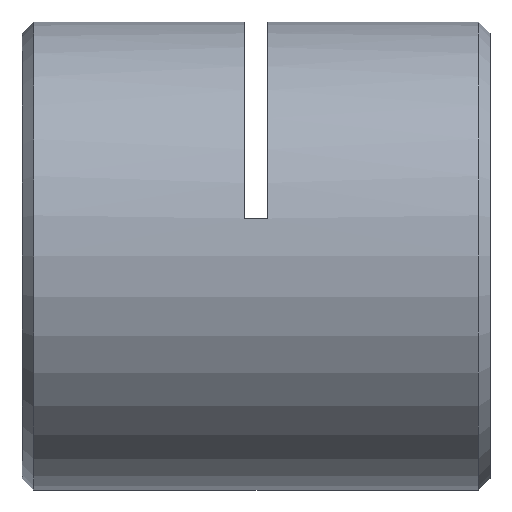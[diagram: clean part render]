
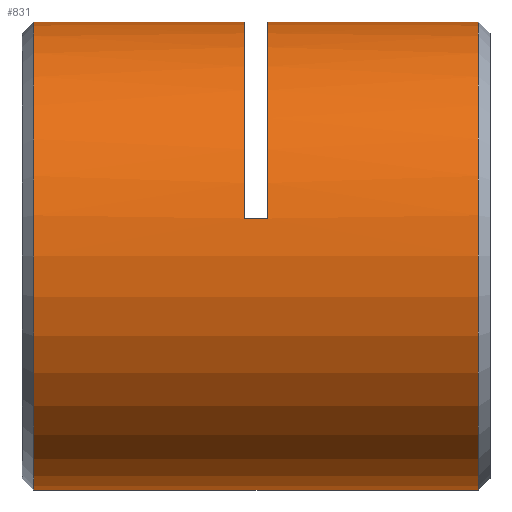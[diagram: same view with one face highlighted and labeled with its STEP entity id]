
A CAD part, left-side view. The second image highlights one B-rep face of the part: STEP entity #831.
In plain terms, the highlighted cylindrical face has radius 8 mm (diameter 16 mm), a partial arc.
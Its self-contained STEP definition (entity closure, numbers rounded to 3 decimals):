
#122 = ORIENTED_EDGE ( 'NONE', *, *, #991, .F. ) ;
#131 = ORIENTED_EDGE ( 'NONE', *, *, #1082, .T. ) ;
#174 = AXIS2_PLACEMENT_3D ( 'NONE', #250, #2898, #3213 ) ;
#179 = VERTEX_POINT ( 'NONE', #2914 ) ;
#250 = CARTESIAN_POINT ( 'NONE',  ( 0., 8.65, 0. ) ) ;
#302 = VECTOR ( 'NONE', #3317, 1000. ) ;
#452 = EDGE_LOOP ( 'NONE', ( #122, #3755, #973, #3334, #1935, #2507, #131, #2766 ) ) ;
#476 = CARTESIAN_POINT ( 'NONE',  ( 0., 0.25, 8. ) ) ;
#592 = AXIS2_PLACEMENT_3D ( 'NONE', #2470, #1619, #2769 ) ;
#618 = EDGE_CURVE ( 'NONE', #2199, #3377, #3453, .T. ) ;
#637 = DIRECTION ( 'NONE',  ( 0., 0., 1. ) ) ;
#674 = DIRECTION ( 'NONE',  ( 0., 1., 0. ) ) ;
#831 = ADVANCED_FACE ( 'NONE', ( #3360 ), #897, .T. ) ;
#857 = EDGE_CURVE ( 'NONE', #3784, #2199, #1928, .T. ) ;
#892 = CARTESIAN_POINT ( 'NONE',  ( 0., 0.65, -8. ) ) ;
#897 = CYLINDRICAL_SURFACE ( 'NONE', #3792, 8. ) ;
#933 = CARTESIAN_POINT ( 'NONE',  ( 0., 0.65, 0. ) ) ;
#973 = ORIENTED_EDGE ( 'NONE', *, *, #618, .T. ) ;
#978 = CARTESIAN_POINT ( 'NONE',  ( 0., 0.25, -8. ) ) ;
#991 = EDGE_CURVE ( 'NONE', #3784, #179, #3733, .T. ) ;
#1030 = VECTOR ( 'NONE', #2185, 1000. ) ;
#1082 = EDGE_CURVE ( 'NONE', #3148, #2596, #2667, .T. ) ;
#1127 = CARTESIAN_POINT ( 'NONE',  ( -7.897, 8.25, 1.28 ) ) ;
#1237 = CARTESIAN_POINT ( 'NONE',  ( 0., 0.25, 0. ) ) ;
#1535 = EDGE_CURVE ( 'NONE', #1782, #3148, #2883, .T. ) ;
#1543 = DIRECTION ( 'NONE',  ( 0., 1., 0. ) ) ;
#1564 = CARTESIAN_POINT ( 'NONE',  ( 0., 7.85, 8. ) ) ;
#1619 = DIRECTION ( 'NONE',  ( 0., -1., 0. ) ) ;
#1654 = CARTESIAN_POINT ( 'NONE',  ( -7.897, 8.65, 1.28 ) ) ;
#1756 = AXIS2_PLACEMENT_3D ( 'NONE', #933, #1543, #3268 ) ;
#1782 = VERTEX_POINT ( 'NONE', #1654 ) ;
#1904 = CARTESIAN_POINT ( 'NONE',  ( 0., 0.25, 8. ) ) ;
#1928 = CIRCLE ( 'NONE', #1756, 8. ) ;
#1935 = ORIENTED_EDGE ( 'NONE', *, *, #2172, .T. ) ;
#1995 = AXIS2_PLACEMENT_3D ( 'NONE', #3554, #3580, #3259 ) ;
#2056 = VECTOR ( 'NONE', #3181, 1000. ) ;
#2172 = EDGE_CURVE ( 'NONE', #2516, #1782, #3632, .T. ) ;
#2185 = DIRECTION ( 'NONE',  ( 0., 1., 0. ) ) ;
#2199 = VERTEX_POINT ( 'NONE', #2338 ) ;
#2338 = CARTESIAN_POINT ( 'NONE',  ( 0., 0.65, 8. ) ) ;
#2470 = CARTESIAN_POINT ( 'NONE',  ( 0., 15.85, 0. ) ) ;
#2507 = ORIENTED_EDGE ( 'NONE', *, *, #1535, .T. ) ;
#2516 = VERTEX_POINT ( 'NONE', #3201 ) ;
#2596 = VERTEX_POINT ( 'NONE', #3545 ) ;
#2667 = LINE ( 'NONE', #476, #2930 ) ;
#2766 = ORIENTED_EDGE ( 'NONE', *, *, #3540, .T. ) ;
#2769 = DIRECTION ( 'NONE',  ( 0., 0., -1. ) ) ;
#2883 = CIRCLE ( 'NONE', #174, 8. ) ;
#2898 = DIRECTION ( 'NONE',  ( 0., 1., 0. ) ) ;
#2914 = CARTESIAN_POINT ( 'NONE',  ( 0., 15.85, -8. ) ) ;
#2930 = VECTOR ( 'NONE', #3716, 1000. ) ;
#3044 = EDGE_CURVE ( 'NONE', #2516, #3377, #3671, .T. ) ;
#3148 = VERTEX_POINT ( 'NONE', #3287 ) ;
#3181 = DIRECTION ( 'NONE',  ( 0., 1., 0. ) ) ;
#3201 = CARTESIAN_POINT ( 'NONE',  ( -7.897, 7.85, 1.28 ) ) ;
#3213 = DIRECTION ( 'NONE',  ( 0., 0., 1. ) ) ;
#3259 = DIRECTION ( 'NONE',  ( 0., 0., 1. ) ) ;
#3268 = DIRECTION ( 'NONE',  ( 0., 0., 1. ) ) ;
#3287 = CARTESIAN_POINT ( 'NONE',  ( 0., 8.65, 8. ) ) ;
#3317 = DIRECTION ( 'NONE',  ( 0., 1., 0. ) ) ;
#3334 = ORIENTED_EDGE ( 'NONE', *, *, #3044, .F. ) ;
#3360 = FACE_OUTER_BOUND ( 'NONE', #452, .T. ) ;
#3377 = VERTEX_POINT ( 'NONE', #1564 ) ;
#3453 = LINE ( 'NONE', #1904, #1030 ) ;
#3540 = EDGE_CURVE ( 'NONE', #2596, #179, #3622, .T. ) ;
#3545 = CARTESIAN_POINT ( 'NONE',  ( 0., 15.85, 8. ) ) ;
#3554 = CARTESIAN_POINT ( 'NONE',  ( 0., 7.85, 0. ) ) ;
#3580 = DIRECTION ( 'NONE',  ( 0., 1., 0. ) ) ;
#3622 = CIRCLE ( 'NONE', #592, 8. ) ;
#3632 = LINE ( 'NONE', #1127, #2056 ) ;
#3671 = CIRCLE ( 'NONE', #1995, 8. ) ;
#3716 = DIRECTION ( 'NONE',  ( 0., 1., 0. ) ) ;
#3733 = LINE ( 'NONE', #978, #302 ) ;
#3755 = ORIENTED_EDGE ( 'NONE', *, *, #857, .T. ) ;
#3784 = VERTEX_POINT ( 'NONE', #892 ) ;
#3792 = AXIS2_PLACEMENT_3D ( 'NONE', #1237, #674, #637 ) ;
